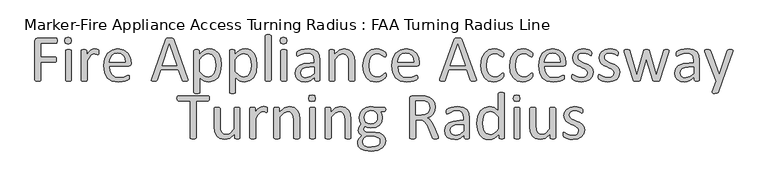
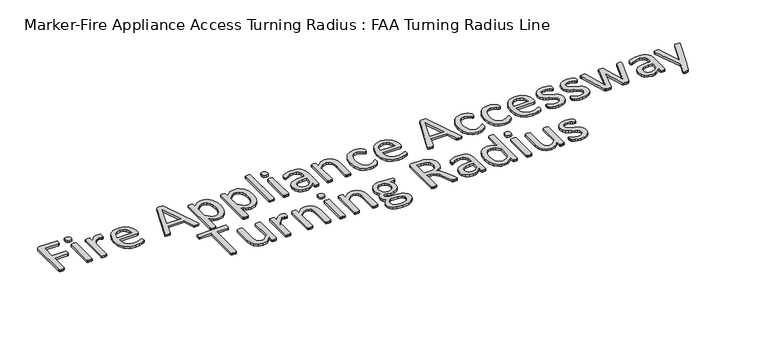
"""IFC4 building model written with IfcOpenShell, lengths in millimetres: proxy geometry, Marker-Fire Appliance Access Turning Radius : FAA Turning Radius Line."""

from ifc_helpers import new_model, si_unit, origin, origin_with_axes, place, context, project, spatial, polyline, outline, extrude, source, transform, mapped, element, save


def marker_fire_appliance_access_turning_radius_faa_turning_acc526ec(model_context):
    return source(origin(), model_context, "Body", "SweptSolid", [
        extrude(outline(polyline([(2938.7478428, 223.7082635), (2938.4462679, 218.4910177), (2937.3907558, 214.9324338), (2935.6416213, 212.9420395), (2933.5607545, 212.3087322), (2861.5446675, 212.3087322), (2861.5446675, 146.6860331), (2929.5799658, 146.6860331), (2931.6608326, 146.1130408), (2933.409967, 144.2432764), (2934.4654792, 140.775165), (2934.7670541, 135.1658718), (2934.4654792, 129.9184685), (2933.409967, 126.3598846), (2931.6608326, 124.2488603), (2929.5799658, 123.5250805), (2861.5446675, 123.5250805), (2861.5446675, 39.6872573), (2860.9113602, 37.6063905), (2858.7098634, 36.0683585), (2854.6386022, 35.1334763), (2848.0341118, 34.7414289), (2841.5804089, 35.1334763), (2837.3583602, 36.0683585), (2835.1568634, 37.6063905), (2834.5235561, 39.6872573), (2834.5235561, 224.6733032), (2837.6599351, 233.087243), (2844.354898, 235.4696848), (2933.5607545, 235.4696848), (2935.5813064, 234.8363775), (2937.3605983, 232.7856681), (2938.4462679, 229.0461393), (2938.7478428, 223.7082635)])), origin_with_axes(), (0.0, 0.0, 1.0), 10.0),
        extrude(outline(polyline([(3004.3705419, 224.0701534), (3001.0532179, 211.7357399), (2988.7489619, 208.4485734), (2976.7462807, 211.6452674), (2973.4892717, 223.7082635), (2976.8065957, 236.0426771), (2989.1108518, 239.3298435), (3001.1135329, 236.1331496), (3004.3705419, 224.0701534)])), origin_with_axes(), (0.0, 0.0, 1.0), 10.0),
        extrude(outline(polyline([(3004.3705419, 39.4459974), (3003.7070771, 37.3952881), (3001.5658953, 35.9477285), (2997.4946341, 35.0430038), (2990.7996712, 34.7414289), (2984.2253383, 35.0430038), (2980.0636046, 35.9477285), (2977.9224228, 37.3952881), (2977.3494305, 39.4459974), (2977.3494305, 176.7228935), (2977.9224228, 178.6831304), (2980.0636046, 180.2211624), (2984.2253383, 181.1258871), (2990.7996712, 181.427462), (2997.4946341, 181.1258871), (3001.5658953, 180.2211624), (3003.7070771, 178.6831304), (3004.3705419, 176.7228935), (3004.3705419, 39.4459974)])), origin_with_axes(), (0.0, 0.0, 1.0), 10.0),
        extrude(outline(polyline([(3131.7557812, 169.8469857), (3131.6049937, 164.3583225), (3131.0018439, 160.7997386), (3129.8860168, 158.7791868), (3128.0162524, 158.0855645), (3125.0909758, 158.7791868), (3121.2006596, 160.1664313), (3116.3453036, 161.4933609), (3110.524908, 162.1266682), (3103.1664803, 160.4680062), (3095.5969502, 155.039658), (3087.3036404, 145.0273712), (3077.7135584, 129.7375235), (3077.7135584, 39.4459974), (3077.0500937, 37.3952881), (3074.9089118, 35.9477285), (3070.8376506, 35.0430038), (3064.1426878, 34.7414289), (3057.5683549, 35.0430038), (3053.4066212, 35.9477285), (3051.2654394, 37.3952881), (3050.6924471, 39.4459974), (3050.6924471, 176.7228935), (3051.1749669, 178.7736029), (3053.1352038, 180.2814774), (3056.9048901, 181.1862021), (3062.9967031, 181.427462), (3068.9678862, 181.1862021), (3072.6471001, 180.2814774), (3074.547022, 178.7736029), (3075.1200143, 176.7228935), (3075.1200143, 156.6983199), (3085.5545059, 170.9929704), (3094.8128555, 179.7084851), (3103.4378977, 184.0813212), (3112.0930975, 185.2876208), (3116.4960911, 185.0765184), (3121.6831794, 184.2622661), (3126.5686928, 182.9051791), (3129.6447569, 181.427462), (3130.8510565, 180.0402175), (3131.3938913, 178.3212405), (3131.6954662, 175.275334), (3131.7557812, 169.8469857)])), origin_with_axes(), (0.0, 0.0, 1.0), 10.0),
        extrude(outline(polyline([(3282.3019731, 115.2619282), (3279.3163815, 106.7575159), (3272.4706312, 104.2242867), (3181.9378451, 104.2242867), (3184.1996569, 81.9077438), (3191.708872, 64.8989193), (3205.4003726, 53.9819078), (3226.0280961, 50.182064), (3243.1575506, 51.9613559), (3256.1855864, 55.9723021), (3265.202676, 59.9832483), (3270.5405518, 61.7625403), (3272.4103162, 61.2498629), (3273.7070883, 59.7419884), (3274.3705531, 56.9373418), (3274.5816555, 52.5343482), (3274.4308681, 49.3074967), (3274.0388207, 46.86474), (3273.2848835, 44.9045032), (3271.9277964, 43.2458412), (3267.0121255, 40.3205646), (3256.4268463, 36.1588309), (3241.3481012, 32.5097746), (3223.072662, 30.8812701), (3193.6087939, 35.7064686), (3172.3477632, 50.061434), (3159.3197274, 73.9763239), (3154.9167338, 107.3606657), (3159.5308298, 139.9307553), (3172.8302831, 164.4186375), (3193.8198963, 179.88943), (3221.3838425, 185.2876208), (3249.1287337, 180.070375), (3267.9771652, 166.0169845), (3278.8338617, 145.2987886), (3282.3019731, 119.9061817), (3282.3019731, 115.2619282)]), holes=[polyline([(3255.2808617, 123.5250805), (3253.3281642, 141.2350668), (3246.625662, 154.6777681), (3235.3392212, 163.1595622), (3219.6347081, 165.986827), (3203.5607657, 162.4885581), (3192.0104469, 153.1698936), (3184.8028067, 139.6291804), (3181.9378451, 123.5250805), (3255.2808617, 123.5250805)])]), origin_with_axes(), (0.0, 0.0, 1.0), 10.0),
        extrude(outline(polyline([(3547.4466284, 45.1759206), (3548.7434005, 39.6872573), (3547.5974158, 36.4604059), (3543.4959971, 35.0430038), (3535.8661521, 34.7414289), (3528.175992, 34.9826888), (3523.8634709, 35.7667836), (3521.7222891, 37.2445006), (3520.365202, 39.5666274), (3503.2357475, 88.7836516), (3420.0613891, 88.7836516), (3403.7160293, 40.2300921), (3402.4494147, 37.8174929), (3400.2177604, 36.0683585), (3396.0560267, 35.0430038), (3388.999174, 34.7414289), (3381.6709038, 35.1334763), (3377.6599576, 36.6111933), (3376.574288, 39.8078873), (3377.9012175, 45.2965505), (3444.9714761, 229.9810215), (3446.5698231, 232.7253531), (3449.5252572, 234.3840151), (3454.4710856, 235.2284248), (3462.1009306, 235.4696848), (3470.303768, 235.2284248), (3475.5813288, 234.3840151), (3478.6573928, 232.6650382), (3480.3763698, 229.8603916), (3547.4466284, 45.1759206)]), holes=[polyline([(3461.3771509, 208.4485734), (3426.7563519, 108.0844455), (3496.2995247, 108.0844455), (3461.3771509, 208.4485734)])]), origin_with_axes(), (0.0, 0.0, 1.0), 10.0),
        extrude(outline(polyline([(3703.0592786, 110.1954698), (3699.1991199, 77.1127029), (3687.8599035, 52.2026158), (3669.3130469, 36.4302484), (3644.0109125, 30.8812701), (3632.8224836, 32.1177272), (3622.7498818, 36.038201), (3612.9788549, 42.7633213), (3602.6951507, 52.2930883), (3602.6951507, -18.1548092), (3602.0316859, -20.356306), (3599.8905041, -21.9244955), (3595.8192429, -22.8593777), (3589.12428, -23.1609526), (3582.5499471, -22.8593777), (3578.3882135, -21.9244955), (3576.2470317, -20.356306), (3575.6740393, -18.2151242), (3575.6740393, 176.6022636), (3576.1565592, 178.8640754), (3578.1167961, 180.3417924), (3581.8864824, 181.1862021), (3587.4957756, 181.427462), (3593.1352263, 181.2163596), (3596.8144401, 180.4322649), (3598.8651494, 179.0450203), (3599.4381418, 176.9038385), (3599.4381418, 159.3521791), (3611.4106654, 170.7517104), (3623.0212992, 178.8037604), (3635.0239804, 183.6591163), (3647.9917012, 185.2876208), (3661.7435168, 183.8023644), (3673.3239931, 179.3465952), (3690.3931327, 163.1218654), (3700.0133721, 139.176818), (3703.0592786, 110.1954698)]), holes=[polyline([(3676.0381673, 107.2400357), (3674.4699778, 127.6868142), (3669.071787, 145.2384736), (3658.7880828, 157.5125722), (3642.7442979, 162.1266682), (3633.2748459, 160.7092662), (3623.8355515, 156.1856426), (3613.7931072, 148.0431202), (3602.6951507, 135.6483917), (3602.6951507, 79.7364045), (3622.026102, 60.6467131), (3631.3975422, 55.6933453), (3641.2364234, 54.0422227), (3657.2198933, 58.6563188), (3668.0162748, 70.9304173), (3674.0779304, 88.0900294), (3676.0381673, 107.2400357)])]), origin_with_axes(), (0.0, 0.0, 1.0), 10.0),
        extrude(outline(polyline([(3869.0461056, 110.1954698), (3865.1859468, 77.1127029), (3853.8467305, 52.2026158), (3835.2998739, 36.4302484), (3809.9977395, 30.8812701), (3798.8093106, 32.1177272), (3788.7367088, 36.038201), (3778.9656819, 42.7633213), (3768.6819777, 52.2930883), (3768.6819777, -18.1548092), (3768.0185129, -20.356306), (3765.8773311, -21.9244955), (3761.8060699, -22.8593777), (3755.111107, -23.1609526), (3748.5367741, -22.8593777), (3744.3750404, -21.9244955), (3742.2338586, -20.356306), (3741.6608663, -18.2151242), (3741.6608663, 176.6022636), (3742.1433862, 178.8640754), (3744.103623, 180.3417924), (3747.8733093, 181.1862021), (3753.4826025, 181.427462), (3759.1220532, 181.2163596), (3762.8012671, 180.4322649), (3764.8519764, 179.0450203), (3765.4249687, 176.9038385), (3765.4249687, 159.3521791), (3777.3974924, 170.7517104), (3789.0081262, 178.8037604), (3801.0108074, 183.6591163), (3813.9785282, 185.2876208), (3827.7303438, 183.8023644), (3839.3108201, 179.3465952), (3856.3799597, 163.1218654), (3866.0001991, 139.176818), (3869.0461056, 110.1954698)]), holes=[polyline([(3842.0249942, 107.2400357), (3840.4568047, 127.6868142), (3835.058614, 145.2384736), (3824.7749098, 157.5125722), (3808.7311249, 162.1266682), (3799.2616729, 160.7092662), (3789.8223784, 156.1856426), (3779.7799341, 148.0431202), (3768.6819777, 135.6483917), (3768.6819777, 79.7364045), (3788.012929, 60.6467131), (3797.3843691, 55.6933453), (3807.2232504, 54.0422227), (3823.2067203, 58.6563188), (3834.0031018, 70.9304173), (3840.0647574, 88.0900294), (3842.0249942, 107.2400357)])]), origin_with_axes(), (0.0, 0.0, 1.0), 10.0),
        extrude(outline(polyline([(3934.6688046, 39.5063124), (3934.0053399, 37.455603), (3931.864158, 35.977886), (3927.7928968, 35.0430038), (3921.097934, 34.7414289), (3914.5236011, 35.0430038), (3910.3618674, 35.977886), (3908.2206856, 37.455603), (3907.6476933, 39.5063124), (3907.6476933, 245.9644914), (3908.2206856, 248.1358307), (3910.3618674, 249.6738627), (3914.5236011, 250.6087449), (3921.097934, 250.9103198), (3927.7928968, 250.6087449), (3931.864158, 249.6738627), (3934.0053399, 248.1358307), (3934.6688046, 245.9644914), (3934.6688046, 39.5063124)])), origin_with_axes(), (0.0, 0.0, 1.0), 10.0),
        extrude(outline(polyline([(4008.0118212, 224.0701534), (4004.6944973, 211.7357399), (3992.3902412, 208.4485734), (3980.38756, 211.6452674), (3977.1305511, 223.7082635), (3980.447875, 236.0426771), (3992.7521311, 239.3298435), (4004.7548123, 236.1331496), (4008.0118212, 224.0701534)])), origin_with_axes(), (0.0, 0.0, 1.0), 10.0),
        extrude(outline(polyline([(4008.0118212, 39.4459974), (4007.3483564, 37.3952881), (4005.2071746, 35.9477285), (4001.1359134, 35.0430038), (3994.4409506, 34.7414289), (3987.8666177, 35.0430038), (3983.704884, 35.9477285), (3981.5637022, 37.3952881), (3980.9907098, 39.4459974), (3980.9907098, 176.7228935), (3981.5637022, 178.6831304), (3983.704884, 180.2211624), (3987.8666177, 181.1258871), (3994.4409506, 181.427462), (4001.1359134, 181.1258871), (4005.2071746, 180.2211624), (4007.3483564, 178.6831304), (4008.0118212, 176.7228935), (4008.0118212, 39.4459974)])), origin_with_axes(), (0.0, 0.0, 1.0), 10.0),
        extrude(outline(polyline([(4162.4181719, 39.3856824), (4161.0912423, 36.5810358), (4157.4723435, 35.1937913), (4150.7170656, 34.7414289), (4143.8713153, 35.1937913), (4140.161944, 36.5810358), (4139.0159594, 39.3856824), (4139.0159594, 53.258128), (4118.6898109, 37.2143431), (4107.139492, 32.4645384), (4094.9257084, 30.8812701), (4074.9916073, 33.7462317), (4059.8223897, 42.0395416), (4050.0815203, 55.3691523), (4046.6134089, 73.3430166), (4051.4084498, 93.789795), (4065.1602655, 108.2050754), (4087.084761, 116.7999602), (4116.2772116, 119.6649218), (4135.3970605, 119.6649218), (4135.3970605, 131.1850831), (4133.7082411, 146.2638283), (4128.2798928, 157.1808398), (4118.5993384, 163.7551727), (4103.9729556, 165.986827), (4087.2355484, 163.5742277), (4074.2678275, 158.2665094), (4064.949163, 152.9587911), (4059.4001848, 150.5461919), (4057.2288455, 151.1794992), (4055.6304985, 153.1095786), (4054.6353013, 156.4269025), (4054.3337264, 160.8600536), (4054.8765612, 167.1931266), (4057.5304204, 171.6262777), (4064.7682181, 176.1499012), (4076.5899543, 180.6132098), (4091.2163371, 183.9606912), (4107.2299645, 185.2876208), (4132.8638313, 181.8798244), (4149.9631284, 171.9278526), (4159.4627378, 155.6729653), (4162.4181719, 132.9945325), (4162.4181719, 39.3856824)]), holes=[polyline([(4135.3970605, 100.3641279), (4113.9249274, 100.3641279), (4096.0113781, 98.584836), (4083.3753896, 93.3374327), (4075.9868045, 85.0139653), (4073.6345202, 73.8255364), (4075.3233397, 64.084667), (4080.3897981, 56.5754519), (4088.502163, 51.780411), (4099.328702, 50.182064), (4117.6644562, 55.2786798), (4135.3970605, 70.8701024), (4135.3970605, 100.3641279)])]), origin_with_axes(), (0.0, 0.0, 1.0), 10.0),
        extrude(outline(polyline([(4324.5448401, 39.5063124), (4323.8813753, 37.455603), (4321.7401935, 35.977886), (4317.6689323, 35.0430038), (4311.0945994, 34.7414289), (4304.3996365, 35.0430038), (4300.3283753, 35.9477285), (4298.1871935, 37.3952881), (4297.5237287, 39.5063124), (4297.5237287, 120.0871266), (4295.7444368, 139.0260306), (4290.5875059, 151.4207591), (4281.8116762, 159.3823366), (4269.3566327, 162.1266682), (4251.0510361, 155.4015478), (4231.9010297, 135.6483917), (4231.9010297, 39.5063124), (4231.2375649, 37.3952881), (4229.0963831, 35.9477285), (4225.0251219, 35.0430038), (4218.330159, 34.7414289), (4211.7558261, 35.0430038), (4207.5940924, 35.9477285), (4205.4529106, 37.3952881), (4204.8799183, 39.4459974), (4204.8799183, 176.7228935), (4205.3624382, 178.7736029), (4207.322675, 180.2814774), (4211.0923613, 181.1862021), (4217.1841744, 181.427462), (4223.1553575, 181.1862021), (4226.8345713, 180.2814774), (4228.7344932, 178.7736029), (4229.3074855, 176.7228935), (4229.3074855, 158.5680843), (4252.3779656, 178.8640754), (4275.5690757, 185.2876208), (4298.6093984, 180.5830523), (4313.7484585, 168.0073788), (4322.0417684, 149.5811522), (4324.5448401, 124.1885453), (4324.5448401, 39.5063124)])), origin_with_axes(), (0.0, 0.0, 1.0), 10.0),
        extrude(outline(polyline([(4471.2308732, 62.48632), (4471.0800858, 58.2642714), (4470.5372509, 55.2485223), (4469.6325262, 52.8057656), (4467.219927, 49.1868668), (4460.7360666, 43.3061562), (4450.4523624, 37.0635557), (4438.0576338, 32.6002471), (4424.1851882, 30.8812701), (4398.0084866, 35.8874135), (4378.9187952, 50.5137964), (4367.1875315, 74.0969538), (4363.1464277, 106.335311), (4368.0922562, 142.0719371), (4381.6329693, 166.5296618), (4401.8686454, 180.6735248), (4427.0803073, 185.2876208), (4439.8067683, 183.9305337), (4451.1459846, 180.3719499), (4460.3741767, 175.3054915), (4466.2247298, 170.3898206), (4468.7278015, 167.1629691), (4469.8737862, 164.5995824), (4470.476936, 161.4330459), (4470.6277234, 156.9998948), (4469.2706363, 148.9780024), (4465.9834699, 146.6860331), (4460.7662241, 149.0986324), (4453.3173239, 154.4063507), (4442.3701549, 159.714069), (4427.2612523, 162.1266682), (4411.390873, 158.6283993), (4399.7274636, 148.1335927), (4392.5575202, 130.9739807), (4390.1675391, 107.4812957), (4392.6404533, 84.1393981), (4399.938566, 67.3718335), (4411.7904597, 57.3293892), (4427.8644021, 54.0422227), (4442.9129898, 57.0881293), (4454.1315762, 63.7830921), (4462.1233111, 70.3875825), (4467.1897695, 73.3430166), (4468.9690614, 72.7700243), (4470.2658335, 70.8399449), (4471.0197708, 67.401991), (4471.2308732, 62.48632)])), origin_with_axes(), (0.0, 0.0, 1.0), 10.0),
        extrude(outline(polyline([(4625.6372239, 115.2619282), (4622.6516323, 106.7575159), (4615.805882, 104.2242867), (4525.273096, 104.2242867), (4527.5349077, 81.9077438), (4535.0441228, 64.8989193), (4548.7356235, 53.9819078), (4569.3633469, 50.182064), (4586.4928014, 51.9613559), (4599.5208372, 55.9723021), (4608.5379268, 59.9832483), (4613.8758026, 61.7625403), (4615.745567, 61.2498629), (4617.0423391, 59.7419884), (4617.7058039, 56.9373418), (4617.9169064, 52.5343482), (4617.7661189, 49.3074967), (4617.3740715, 46.86474), (4616.6201343, 44.9045032), (4615.2630472, 43.2458412), (4610.3473763, 40.3205646), (4599.7620972, 36.1588309), (4584.683352, 32.5097746), (4566.4079128, 30.8812701), (4536.9440447, 35.7064686), (4515.683014, 50.061434), (4502.6549782, 73.9763239), (4498.2519846, 107.3606657), (4502.8660806, 139.9307553), (4516.1655339, 164.4186375), (4537.1551472, 179.88943), (4564.7190933, 185.2876208), (4592.4639845, 180.070375), (4611.312416, 166.0169845), (4622.1691125, 145.2987886), (4625.6372239, 119.9061817), (4625.6372239, 115.2619282)]), holes=[polyline([(4598.6161125, 123.5250805), (4596.663415, 141.2350668), (4589.9609128, 154.6777681), (4578.674472, 163.1595622), (4562.9699589, 165.986827), (4546.8960165, 162.4885581), (4535.3456977, 153.1698936), (4528.1380575, 139.6291804), (4525.273096, 123.5250805), (4598.6161125, 123.5250805)])]), origin_with_axes(), (0.0, 0.0, 1.0), 10.0),
        extrude(outline(polyline([(4890.7818792, 45.1759206), (4892.0786513, 39.6872573), (4890.9326666, 36.4604059), (4886.8312479, 35.0430038), (4879.2014029, 34.7414289), (4871.5112428, 34.9826888), (4867.1987217, 35.7667836), (4865.0575399, 37.2445006), (4863.7004528, 39.5666274), (4846.5709983, 88.7836516), (4763.3966399, 88.7836516), (4747.0512801, 40.2300921), (4745.7846655, 37.8174929), (4743.5530112, 36.0683585), (4739.3912775, 35.0430038), (4732.3344248, 34.7414289), (4725.0061546, 35.1334763), (4720.9952084, 36.6111933), (4719.9095388, 39.8078873), (4721.2364683, 45.2965505), (4788.3067269, 229.9810215), (4789.9050739, 232.7253531), (4792.860508, 234.3840151), (4797.8063364, 235.2284248), (4805.4361814, 235.4696848), (4813.6390188, 235.2284248), (4818.9165796, 234.3840151), (4821.9926436, 232.6650382), (4823.7116206, 229.8603916), (4890.7818792, 45.1759206)]), holes=[polyline([(4804.7124017, 208.4485734), (4770.0916027, 108.0844455), (4839.6347755, 108.0844455), (4804.7124017, 208.4485734)])]), origin_with_axes(), (0.0, 0.0, 1.0), 10.0),
        extrude(outline(polyline([(5019.3734181, 62.48632), (5019.2226306, 58.2642714), (5018.6797958, 55.2485223), (5017.7750711, 52.8057656), (5015.3624719, 49.1868668), (5008.8786114, 43.3061562), (4998.5949072, 37.0635557), (4986.2001787, 32.6002471), (4972.3277331, 30.8812701), (4946.1510315, 35.8874135), (4927.0613401, 50.5137964), (4915.3300763, 74.0969538), (4911.2889726, 106.335311), (4916.234801, 142.0719371), (4929.7755142, 166.5296618), (4950.0111902, 180.6735248), (4975.2228522, 185.2876208), (4987.9493131, 183.9305337), (4999.2885295, 180.3719499), (5008.5167216, 175.3054915), (5014.3672747, 170.3898206), (5016.8703464, 167.1629691), (5018.016331, 164.5995824), (5018.6194808, 161.4330459), (5018.7702683, 156.9998948), (5017.4131812, 148.9780024), (5014.1260148, 146.6860331), (5008.9087689, 149.0986324), (5001.4598688, 154.4063507), (4990.5126998, 159.714069), (4975.4037971, 162.1266682), (4959.5334178, 158.6283993), (4947.8700084, 148.1335927), (4940.7000651, 130.9739807), (4938.310084, 107.4812957), (4940.7829982, 84.1393981), (4948.0811109, 67.3718335), (4959.9330046, 57.3293892), (4976.0069469, 54.0422227), (4991.0555346, 57.0881293), (5002.274121, 63.7830921), (5010.265856, 70.3875825), (5015.3323144, 73.3430166), (5017.1116063, 72.7700243), (5018.4083784, 70.8399449), (5019.1623157, 67.401991), (5019.3734181, 62.48632)])), origin_with_axes(), (0.0, 0.0, 1.0), 10.0),
        extrude(outline(polyline([(5154.4789749, 62.48632), (5154.3281875, 58.2642714), (5153.7853526, 55.2485223), (5152.8806279, 52.8057656), (5150.4680287, 49.1868668), (5143.9841683, 43.3061562), (5133.7004641, 37.0635557), (5121.3057355, 32.6002471), (5107.43329, 30.8812701), (5081.2565883, 35.8874135), (5062.1668969, 50.5137964), (5050.4356332, 74.0969538), (5046.3945295, 106.335311), (5051.3403579, 142.0719371), (5064.881071, 166.5296618), (5085.1167471, 180.6735248), (5110.328409, 185.2876208), (5123.05487, 183.9305337), (5134.3940863, 180.3719499), (5143.6222784, 175.3054915), (5149.4728315, 170.3898206), (5151.9759032, 167.1629691), (5153.1218879, 164.5995824), (5153.7250377, 161.4330459), (5153.8758251, 156.9998948), (5152.518738, 148.9780024), (5149.2315716, 146.6860331), (5144.0143258, 149.0986324), (5136.5654256, 154.4063507), (5125.6182566, 159.714069), (5110.509354, 162.1266682), (5094.6389747, 158.6283993), (5082.9755653, 148.1335927), (5075.8056219, 130.9739807), (5073.4156408, 107.4812957), (5075.888555, 84.1393981), (5083.1866677, 67.3718335), (5095.0385614, 57.3293892), (5111.1125038, 54.0422227), (5126.1610915, 57.0881293), (5137.3796779, 63.7830921), (5145.3714128, 70.3875825), (5150.4378712, 73.3430166), (5152.2171631, 72.7700243), (5153.5139352, 70.8399449), (5154.2678725, 67.401991), (5154.4789749, 62.48632)])), origin_with_axes(), (0.0, 0.0, 1.0), 10.0),
        extrude(outline(polyline([(5308.8853256, 115.2619282), (5305.899734, 106.7575159), (5299.0539837, 104.2242867), (5208.5211977, 104.2242867), (5210.7830094, 81.9077438), (5218.2922245, 64.8989193), (5231.9837252, 53.9819078), (5252.6114486, 50.182064), (5269.7409031, 51.9613559), (5282.7689389, 55.9723021), (5291.7860285, 59.9832483), (5297.1239043, 61.7625403), (5298.9936687, 61.2498629), (5300.2904408, 59.7419884), (5300.9539056, 56.9373418), (5301.1650081, 52.5343482), (5301.0142206, 49.3074967), (5300.6221732, 46.86474), (5299.868236, 44.9045032), (5298.5111489, 43.2458412), (5293.595478, 40.3205646), (5283.0101989, 36.1588309), (5267.9314537, 32.5097746), (5249.6560145, 30.8812701), (5220.1921464, 35.7064686), (5198.9311157, 50.061434), (5185.9030799, 73.9763239), (5181.5000863, 107.3606657), (5186.1141823, 139.9307553), (5199.4136356, 164.4186375), (5220.4032489, 179.88943), (5247.9671951, 185.2876208), (5275.7120862, 180.070375), (5294.5605177, 166.0169845), (5305.4172142, 145.2987886), (5308.8853256, 119.9061817), (5308.8853256, 115.2619282)]), holes=[polyline([(5281.8642142, 123.5250805), (5279.9115167, 141.2350668), (5273.2090145, 154.6777681), (5261.9225737, 163.1595622), (5246.2180606, 165.986827), (5230.1441182, 162.4885581), (5218.5937994, 153.1698936), (5211.3861592, 139.6291804), (5208.5211977, 123.5250805), (5281.8642142, 123.5250805)])]), origin_with_axes(), (0.0, 0.0, 1.0), 10.0),
        extrude(outline(polyline([(5436.2705649, 75.9968757), (5432.2596187, 56.7865544), (5420.8299298, 42.5823764), (5403.187798, 33.8367042), (5380.6601527, 30.8812701), (5366.2147148, 32.2685147), (5353.9406162, 35.7969411), (5344.7425816, 40.2602496), (5339.2237609, 44.4521408), (5336.6905317, 48.8852919), (5335.906437, 55.9119871), (5336.2080119, 60.4657682), (5336.9921066, 63.4513597), (5338.3190362, 65.1100217), (5340.2491156, 65.622699), (5345.255259, 63.2100998), (5353.4580963, 57.9023815), (5365.0084152, 52.5946632), (5380.2982628, 50.182064), (5392.059684, 51.659781), (5401.1974036, 56.0326171), (5407.1685867, 63.3910447), (5409.2494535, 73.9461664), (5406.263862, 83.9282957), (5398.332442, 91.1359359), (5387.264643, 96.6849141), (5374.5984971, 101.7513725), (5361.8418787, 107.7527131), (5350.6836072, 115.9555505), (5342.7521873, 127.5058693), (5339.7665957, 143.6099691), (5342.9632897, 159.4426516), (5352.5533716, 172.7119473), (5368.5368415, 181.8496669), (5390.9740144, 185.2876208), (5402.1926008, 184.2622661), (5412.3255175, 181.668722), (5420.0458351, 178.291083), (5424.8710335, 175.0943891), (5427.0423728, 172.8024198), (5427.8264676, 170.8120254), (5428.3089874, 168.0676938), (5428.5502474, 164.0567476), (5428.3089874, 159.6839115), (5427.5248927, 156.638005), (5426.1678056, 154.919028), (5424.3885137, 154.4063507), (5420.22678, 156.2459576), (5413.2000848, 160.1965888), (5403.067168, 164.1472201), (5389.7677147, 165.986827), (5377.9459785, 164.448795), (5369.5621962, 160.0759589), (5364.6163678, 153.380996), (5362.9275483, 144.9972137), (5366.1242423, 134.7738244), (5374.4778671, 127.5058693), (5386.2091309, 121.8965761), (5399.5990566, 116.7698027), (5413.0794548, 110.8287771), (5424.8710335, 102.8671996), (5433.1341859, 91.6184557), (5436.2705649, 75.9968757)])), origin_with_axes(), (0.0, 0.0, 1.0), 10.0),
        extrude(outline(polyline([(5559.7956454, 75.9968757), (5555.7846992, 56.7865544), (5544.3550104, 42.5823764), (5526.7128785, 33.8367042), (5504.1852332, 30.8812701), (5489.7397953, 32.2685147), (5477.4656967, 35.7969411), (5468.2676622, 40.2602496), (5462.7488414, 44.4521408), (5460.2156122, 48.8852919), (5459.4315175, 55.9119871), (5459.7330924, 60.4657682), (5460.5171871, 63.4513597), (5461.8441167, 65.1100217), (5463.7741961, 65.622699), (5468.7803395, 63.2100998), (5476.9831769, 57.9023815), (5488.5334957, 52.5946632), (5503.8233433, 50.182064), (5515.5847645, 51.659781), (5524.7224841, 56.0326171), (5530.6936672, 63.3910447), (5532.7745341, 73.9461664), (5529.7889425, 83.9282957), (5521.8575225, 91.1359359), (5510.7897236, 96.6849141), (5498.1235776, 101.7513725), (5485.3669592, 107.7527131), (5474.2086878, 115.9555505), (5466.2772678, 127.5058693), (5463.2916763, 143.6099691), (5466.4883702, 159.4426516), (5476.0784522, 172.7119473), (5492.0619221, 181.8496669), (5514.4990949, 185.2876208), (5525.7176813, 184.2622661), (5535.8505981, 181.668722), (5543.5709156, 178.291083), (5548.3961141, 175.0943891), (5550.5674534, 172.8024198), (5551.3515481, 170.8120254), (5551.834068, 168.0676938), (5552.0753279, 164.0567476), (5551.834068, 159.6839115), (5551.0499732, 156.638005), (5549.6928861, 154.919028), (5547.9135942, 154.4063507), (5543.7518605, 156.2459576), (5536.7251653, 160.1965888), (5526.5922485, 164.1472201), (5513.2927953, 165.986827), (5501.4710591, 164.448795), (5493.0872767, 160.0759589), (5488.1414483, 153.380996), (5486.4526289, 144.9972137), (5489.6493228, 134.7738244), (5498.0029477, 127.5058693), (5509.7342114, 121.8965761), (5523.1241371, 116.7698027), (5536.6045353, 110.8287771), (5548.3961141, 102.8671996), (5556.6592664, 91.6184557), (5559.7956454, 75.9968757)])), origin_with_axes(), (0.0, 0.0, 1.0), 10.0),
        extrude(outline(polyline([(5789.1735171, 177.0244684), (5788.8719422, 174.4007668), (5787.7862726, 170.6310805), (5746.8324007, 40.2300921), (5745.3546836, 37.4857605), (5742.5801945, 35.8270986), (5737.7248386, 34.9826888), (5730.004521, 34.7414289), (5721.9524711, 35.0430038), (5716.7955403, 35.9477285), (5713.9305787, 37.576233), (5712.5131766, 40.1094622), (5683.320726, 137.638786), (5655.9377247, 40.1094622), (5654.4901652, 37.4254455), (5651.4744161, 35.7667836), (5646.3174853, 34.9525313), (5638.5066953, 34.7414289), (5630.6657478, 35.0430038), (5625.7199194, 35.9477285), (5622.8851153, 37.636548), (5621.4978707, 40.2300921), (5580.8455737, 170.6310805), (5579.759904, 174.4007668), (5579.4583291, 177.0244684), (5580.0614789, 179.1958077), (5582.1423458, 180.5830523), (5586.092977, 181.2766746), (5592.1244751, 181.427462), (5599.0908554, 181.1862021), (5603.1018016, 180.4322649), (5605.0921959, 178.9243903), (5606.1778656, 176.5419486), (5639.7129949, 63.1497848), (5671.0767849, 176.5419486), (5672.132297, 178.9243903), (5674.2131639, 180.4322649), (5677.9828502, 181.1862021), (5683.9238758, 181.427462), (5690.0458463, 181.1862021), (5693.8155326, 180.4322649), (5695.8360845, 178.9847053), (5696.7709667, 176.8435235), (5730.004521, 63.1497848), (5763.5396503, 176.5419486), (5764.5348475, 178.9243903), (5766.7061868, 180.4322649), (5770.717133, 181.1862021), (5777.2914659, 181.427462), (5783.2324915, 181.2766746), (5786.7910754, 180.5227373), (5788.6306823, 179.1354928), (5789.1735171, 177.0244684)])), origin_with_axes(), (0.0, 0.0, 1.0), 10.0),
        extrude(outline(polyline([(5930.370887, 39.3856824), (5929.0439574, 36.5810358), (5925.4250586, 35.1937913), (5918.6697808, 34.7414289), (5911.8240304, 35.1937913), (5908.1146591, 36.5810358), (5906.9686745, 39.3856824), (5906.9686745, 53.258128), (5886.642526, 37.2143431), (5875.0922072, 32.4645384), (5862.8784236, 30.8812701), (5842.9443225, 33.7462317), (5827.7751048, 42.0395416), (5818.0342354, 55.3691523), (5814.566124, 73.3430166), (5819.361165, 93.789795), (5833.1129806, 108.2050754), (5855.0374761, 116.7999602), (5884.2299268, 119.6649218), (5903.3497757, 119.6649218), (5903.3497757, 131.1850831), (5901.6609562, 146.2638283), (5896.2326079, 157.1808398), (5886.5520535, 163.7551727), (5871.9256707, 165.986827), (5855.1882635, 163.5742277), (5842.2205427, 158.2665094), (5832.9018782, 152.9587911), (5827.3528999, 150.5461919), (5825.1815606, 151.1794992), (5823.5832136, 153.1095786), (5822.5880165, 156.4269025), (5822.2864416, 160.8600536), (5822.8292764, 167.1931266), (5825.4831355, 171.6262777), (5832.7209332, 176.1499012), (5844.5426694, 180.6132098), (5859.1690523, 183.9606912), (5875.1826797, 185.2876208), (5900.8165465, 181.8798244), (5917.9158435, 171.9278526), (5927.415453, 155.6729653), (5930.370887, 132.9945325), (5930.370887, 39.3856824)]), holes=[polyline([(5903.3497757, 100.3641279), (5881.8776425, 100.3641279), (5863.9640932, 98.584836), (5851.3281048, 93.3374327), (5843.9395196, 85.0139653), (5841.5872354, 73.8255364), (5843.2760548, 64.084667), (5848.3425132, 56.5754519), (5856.4548781, 51.780411), (5867.2814172, 50.182064), (5885.6171713, 55.2786798), (5903.3497757, 70.8701024), (5903.3497757, 100.3641279)])]), origin_with_axes(), (0.0, 0.0, 1.0), 10.0),
        extrude(outline(polyline([(6036.706198, 34.7414289), (6018.129184, -17.9135493), (6013.4246155, -21.8038655), (6001.9044542, -23.1609526), (5995.4507512, -22.7689052), (5991.6509074, -21.4118182), (5990.1731904, -18.8484315), (5990.9271277, -15.0184302), (6010.1072915, 34.7414289), (6007.4835899, 36.7318233), (6005.7646129, 39.6269423), (5956.1856988, 171.5961202), (5954.9190842, 176.692736), (5956.1555413, 179.5878551), (5960.1664875, 181.0354147), (5967.5852301, 181.427462), (5974.8531853, 181.1862021), (5979.0450765, 180.3417924), (5981.3068882, 178.5926579), (5982.7242903, 175.4562789), (6022.4718626, 64.6576593), (6061.2543952, 176.0594287), (6063.516207, 179.7989576), (6067.4366807, 181.0354147), (6075.0062108, 181.427462), (6082.1233785, 181.0354147), (6086.2247972, 179.5878551), (6087.5517268, 176.692736), (6086.5866871, 172.07864), (6036.706198, 34.7414289)])), origin_with_axes(), (0.0, 0.0, 1.0), 10.0),
        extrude(outline(polyline([(3647.0869765, -45.7745943), (3646.7854016, -50.9918401), (3645.7902044, -54.550424), (3644.0712275, -56.5408183), (3641.8395732, -57.1741256), (3585.3244363, -57.1741256), (3585.3244363, -229.7956005), (3584.691129, -231.9669398), (3582.4896322, -233.4144993), (3578.3278985, -234.3493815), (3571.8138806, -234.7414289), (3565.3601776, -234.3493815), (3561.138129, -233.4144993), (3558.9366322, -231.9669398), (3558.3033249, -229.7956005), (3558.3033249, -57.1741256), (3501.788188, -57.1741256), (3499.5565337, -56.5408183), (3497.9280292, -54.550424), (3496.932832, -50.9918401), (3496.5407846, -45.7745943), (3496.932832, -40.4367185), (3497.9581867, -36.6971897), (3499.5866912, -34.6464803), (3501.8485029, -34.013173), (3641.7792582, -34.013173), (3644.04107, -34.6464803), (3645.760047, -36.6971897), (3646.7854016, -40.4367185), (3647.0869765, -45.7745943)])), origin_with_axes(), (0.0, 0.0, 1.0), 10.0),
        extrude(outline(polyline([(3789.9128509, -230.0368604), (3789.3398586, -232.0875697), (3787.3193067, -233.5351293), (3783.4893054, -234.439854), (3777.7292248, -234.7414289), (3771.5770968, -234.439854), (3767.837568, -233.5351293), (3765.9678035, -232.0875697), (3765.4852837, -230.0368604), (3765.4852837, -211.8820512), (3742.3544886, -232.2081997), (3719.2236935, -238.6015877), (3696.1833708, -233.9573342), (3681.0443107, -221.3816607), (3672.7510008, -202.8649616), (3670.2479291, -177.1406223), (3670.2479291, -92.8202792), (3670.8209214, -90.7695699), (3673.0224182, -89.2315379), (3677.2444669, -88.2966557), (3683.7584848, -88.0553958), (3690.2725027, -88.2966557), (3694.4040789, -89.2013804), (3696.6055757, -90.7092549), (3697.2690405, -92.8202792), (3697.2690405, -172.9185737), (3698.95786, -192.249525), (3704.1449483, -204.6442535), (3712.9509355, -212.605831), (3725.3758215, -215.4406351), (3734.5210805, -213.7442762), (3743.6211032, -208.6551997), (3762.8917395, -188.7210986), (3762.8917395, -92.7599643), (3763.4647318, -90.7092549), (3765.6662286, -89.2013804), (3769.8279623, -88.2966557), (3776.4022952, -88.0553958), (3782.9163131, -88.2966557), (3786.9875743, -89.2013804), (3789.1890711, -90.7092549), (3789.9128509, -92.7599643), (3789.9128509, -230.0368604)])), origin_with_axes(), (0.0, 0.0, 1.0), 10.0),
        extrude(outline(polyline([(3917.2980902, -99.6358721), (3917.1473027, -105.1245353), (3916.5441529, -108.6831192), (3915.4283258, -110.703671), (3913.5585614, -111.3972933), (3910.6332848, -110.703671), (3906.7429686, -109.3164265), (3901.8876126, -107.9894969), (3896.067217, -107.3561896), (3888.7087893, -109.0148516), (3881.1392593, -114.4431998), (3872.8459494, -124.4554866), (3863.2558675, -139.7453343), (3863.2558675, -230.0368604), (3862.5924027, -232.0875697), (3860.4512209, -233.5351293), (3856.3799597, -234.439854), (3849.6849968, -234.7414289), (3843.1106639, -234.439854), (3838.9489302, -233.5351293), (3836.8077484, -232.0875697), (3836.2347561, -230.0368604), (3836.2347561, -92.7599643), (3836.7172759, -90.7092549), (3838.6775128, -89.2013804), (3842.4471991, -88.2966557), (3848.5390122, -88.0553958), (3854.5101953, -88.2966557), (3858.1894091, -89.2013804), (3860.089331, -90.7092549), (3860.6623233, -92.7599643), (3860.6623233, -112.7845379), (3871.096815, -98.4898874), (3880.3551645, -89.7743727), (3888.9802067, -85.4015366), (3897.6354065, -84.195237), (3902.0384001, -84.4063394), (3907.2254884, -85.2205917), (3912.1110019, -86.5776787), (3915.1870659, -88.0553958), (3916.3933655, -89.4426403), (3916.9362003, -91.1616173), (3917.2377752, -94.2075238), (3917.2980902, -99.6358721)])), origin_with_axes(), (0.0, 0.0, 1.0), 10.0),
        extrude(outline(polyline([(4067.8442821, -229.9765454), (4067.1808173, -232.0272548), (4065.0396355, -233.5049718), (4060.9683743, -234.439854), (4054.3940414, -234.7414289), (4047.6990785, -234.439854), (4043.6278173, -233.5351293), (4041.4866355, -232.0875697), (4040.8231707, -229.9765454), (4040.8231707, -149.3957312), (4039.0438788, -130.4568272), (4033.8869479, -118.0620987), (4025.1111183, -110.1005212), (4012.6560747, -107.3561896), (3994.3504781, -114.08131), (3975.2004717, -133.8344661), (3975.2004717, -229.9765454), (3974.5370069, -232.0875697), (3972.3958251, -233.5351293), (3968.3245639, -234.439854), (3961.629601, -234.7414289), (3955.0552681, -234.439854), (3950.8935345, -233.5351293), (3948.7523526, -232.0875697), (3948.1793603, -230.0368604), (3948.1793603, -92.7599643), (3948.6618802, -90.7092549), (3950.6221171, -89.2013804), (3954.3918033, -88.2966557), (3960.4836164, -88.0553958), (3966.4547995, -88.2966557), (3970.1340133, -89.2013804), (3972.0339352, -90.7092549), (3972.6069275, -92.7599643), (3972.6069275, -110.9147735), (3995.6774077, -90.6187824), (4018.8685177, -84.195237), (4041.9088404, -88.8998055), (4057.0479005, -101.475479), (4065.3412104, -119.9017056), (4067.8442821, -145.2943125), (4067.8442821, -229.9765454)])), origin_with_axes(), (0.0, 0.0, 1.0), 10.0),
        extrude(outline(polyline([(4141.1872987, -45.4127044), (4137.8699747, -57.7471179), (4125.5657187, -61.0342844), (4113.5630375, -57.8375904), (4110.3060285, -45.7745943), (4113.6233525, -33.4401807), (4125.9276085, -30.1530143), (4137.9302897, -33.3497082), (4141.1872987, -45.4127044)])), origin_with_axes(), (0.0, 0.0, 1.0), 10.0),
        extrude(outline(polyline([(4141.1872987, -230.0368604), (4140.5238339, -232.0875697), (4138.3826521, -233.5351293), (4134.3113909, -234.439854), (4127.616428, -234.7414289), (4121.0420951, -234.439854), (4116.8803614, -233.5351293), (4114.7391796, -232.0875697), (4114.1661873, -230.0368604), (4114.1661873, -92.7599643), (4114.7391796, -90.7997274), (4116.8803614, -89.2616954), (4121.0420951, -88.3569707), (4127.616428, -88.0553958), (4134.3113909, -88.3569707), (4138.3826521, -89.2616954), (4140.5238339, -90.7997274), (4141.1872987, -92.7599643), (4141.1872987, -230.0368604)])), origin_with_axes(), (0.0, 0.0, 1.0), 10.0),
        extrude(outline(polyline([(4307.1741256, -229.9765454), (4306.5106608, -232.0272548), (4304.369479, -233.5049718), (4300.2982178, -234.439854), (4293.7238849, -234.7414289), (4287.0289221, -234.439854), (4282.9576609, -233.5351293), (4280.8164791, -232.0875697), (4280.1530143, -229.9765454), (4280.1530143, -149.3957312), (4278.3737223, -130.4568272), (4273.2167915, -118.0620987), (4264.4409618, -110.1005212), (4251.9859183, -107.3561896), (4233.6803216, -114.08131), (4214.5303152, -133.8344661), (4214.5303152, -229.9765454), (4213.8668504, -232.0875697), (4211.7256686, -233.5351293), (4207.6544074, -234.439854), (4200.9594446, -234.7414289), (4194.3851117, -234.439854), (4190.223378, -233.5351293), (4188.0821962, -232.0875697), (4187.5092039, -230.0368604), (4187.5092039, -92.7599643), (4187.9917237, -90.7092549), (4189.9519606, -89.2013804), (4193.7216469, -88.2966557), (4199.8134599, -88.0553958), (4205.784643, -88.2966557), (4209.4638569, -89.2013804), (4211.3637787, -90.7092549), (4211.9367711, -92.7599643), (4211.9367711, -110.9147735), (4235.0072512, -90.6187824), (4258.1983613, -84.195237), (4281.2386839, -88.8998055), (4296.3777441, -101.475479), (4304.6710539, -119.9017056), (4307.1741256, -145.2943125), (4307.1741256, -229.9765454)])), origin_with_axes(), (0.0, 0.0, 1.0), 10.0),
        extrude(outline(polyline([(4469.3007938, -97.7661077), (4467.8230768, -105.0943778), (4464.0533905, -107.3561896), (4444.0891319, -107.3561896), (4451.6888195, -119.8413906), (4453.8601588, -134.0154111), (4450.0, -155.4875442), (4438.932201, -171.2900692), (4421.8027465, -181.1515685), (4399.817936, -184.5593649), (4383.6233637, -182.2975532), (4371.77147, -176.5977875), (4366.9462715, -182.900703), (4365.0765071, -191.0733829), (4370.2032805, -200.0), (4383.8344661, -203.8601588), (4420.8678643, -205.4283483), (4440.2892881, -208.3536248), (4455.5791357, -215.802525), (4465.681895, -227.6544187), (4469.3007938, -243.969621), (4465.2596901, -262.6371075), (4452.8649616, -278.1983725), (4431.5737734, -288.7836516), (4401.0242356, -292.6438104), (4372.1032024, -289.7486913), (4352.5611486, -281.8474288), (4341.4933497, -269.8749052), (4338.0553958, -254.8263175), (4339.2918529, -244.7838732), (4343.0916967, -235.5556811), (4349.4247696, -227.2020563), (4358.1402843, -219.3007938), (4345.8963433, -209.3789795), (4341.9155545, -196.4414161), (4346.0169732, -179.2818041), (4356.14989, -165.7410909), (4348.5502024, -152.7733701), (4345.7757133, -135.2217107), (4349.7866595, -113.779735), (4360.944931, -97.7359502), (4378.0743855, -87.6935059), (4399.817936, -84.195237), (4411.6396723, -85.2205917), (4421.953534, -88.0553958), (4464.0533905, -88.0553958), (4467.9738643, -90.4378375), (4469.3007938, -97.7661077)]), holes=[polyline([(4430.6992062, -134.196356), (4428.6635756, -121.3115683), (4422.5566838, -111.6083957), (4412.6951844, -105.5241221), (4399.3957312, -103.4960308), (4385.9454905, -106.02926), (4376.4157235, -112.9654828), (4370.7762728, -123.1285571), (4368.9366659, -135.1613957), (4370.9722965, -147.7069117), (4377.0791883, -157.2366787), (4386.8502152, -163.253098), (4399.878251, -165.2585711), (4413.5999091, -162.8158144), (4423.2201486, -156.030379), (4428.8595993, -146.0180922), (4430.6992062, -134.196356)]), polyline([(4442.2796825, -244.8140307), (4440.4099181, -236.3171578), (4434.8006249, -230.0067029), (4414.5951063, -224.4878822), (4377.923598, -223.1609526), (4369.6302882, -231.0019001), (4364.5035148, -238.1190678), (4361.9099706, -244.7838732), (4361.2163484, -251.5693085), (4363.8098925, -261.0010636), (4371.5905251, -267.8241958), (4384.0154111, -271.9633114), (4400.5417158, -273.3430166), (4420.3250295, -270.9605748), (4433.1721204, -264.5973444), (4440.1686581, -255.5199398), (4442.2796825, -244.8140307)])]), origin_with_axes(), (0.0, 0.0, 1.0), 10.0),
        extrude(outline(polyline([(4713.7574107, -229.8559155), (4713.3050484, -231.9669398), (4711.314654, -233.5049718), (4706.9719754, -234.439854), (4699.5230753, -234.7414289), (4692.9788999, -234.439854), (4688.8774812, -233.4446568), (4686.4950394, -231.5447349), (4685.0474799, -228.4686709), (4666.6514108, -182.0261357), (4659.9866054, -167.4902254), (4651.904398, -156.0605365), (4640.896914, -148.6116364), (4625.6372239, -145.9577773), (4608.2665094, -145.9577773), (4608.2665094, -229.8559155), (4607.5728872, -231.9970973), (4605.3713904, -233.4446568), (4601.2699717, -234.3493815), (4594.7559538, -234.7414289), (4588.2419358, -234.3493815), (4584.0802022, -233.4144993), (4581.8787054, -231.9669398), (4581.2453981, -229.7956005), (4581.2453981, -44.8095546), (4584.3516196, -36.3956148), (4591.0164249, -34.013173), (4632.8750216, -34.013173), (4645.2395926, -34.4052204), (4654.1662098, -35.2797876), (4674.3415708, -41.6128606), (4689.0584261, -52.6505021), (4697.9548858, -67.9705072), (4700.9103198, -86.9697261), (4698.2866182, -105.0642203), (4690.6869306, -119.2080833), (4678.7747219, -129.8235199), (4663.2134569, -137.453365), (4672.200389, -142.9118707), (4679.7096041, -150.8131332), (4686.2537795, -161.3984123), (4692.4662225, -174.908968), (4710.3797718, -218.637329), (4713.1542609, -226.3576466), (4713.7574107, -229.8559155)]), holes=[polyline([(4673.8892085, -89.8648452), (4668.7322776, -70.5037364), (4661.8186729, -63.7032223), (4651.3917207, -59.104205), (4642.8269934, -57.626488), (4630.2814774, -57.1741256), (4608.2665094, -57.1741256), (4608.2665094, -122.7968247), (4633.7797463, -122.7968247), (4651.6329806, -120.3239105), (4664.1784966, -113.3876877), (4671.5369242, -102.9230385), (4673.8892085, -89.8648452)])]), origin_with_axes(), (0.0, 0.0, 1.0), 10.0),
        extrude(outline(polyline([(4859.1768293, -230.0971754), (4857.8498997, -232.901822), (4854.2310008, -234.2890665), (4847.475723, -234.7414289), (4840.6299727, -234.2890665), (4836.9206014, -232.901822), (4835.7746167, -230.0971754), (4835.7746167, -216.2247298), (4815.4484682, -232.2685147), (4803.8981494, -237.0183194), (4791.6843658, -238.6015877), (4771.7502647, -235.7366261), (4756.581047, -227.4433162), (4746.8401777, -214.1137055), (4743.3720663, -196.1398412), (4748.1671072, -175.6930628), (4761.9189228, -161.2777824), (4783.8434183, -152.6828976), (4813.035869, -149.817936), (4832.1557179, -149.817936), (4832.1557179, -138.2977747), (4830.4668984, -123.2190295), (4825.0385502, -112.302018), (4815.3579958, -105.7276851), (4800.7316129, -103.4960308), (4783.9942058, -105.9086301), (4771.0264849, -111.2163484), (4761.7078204, -116.5240667), (4756.1588422, -118.9366659), (4753.9875029, -118.3033586), (4752.3891559, -116.3732792), (4751.3939587, -113.0559553), (4751.0923838, -108.6228042), (4751.6352186, -102.2897312), (4754.2890778, -97.8565801), (4761.5268755, -93.3329566), (4773.3486117, -88.869648), (4787.9749945, -85.5221666), (4803.9886219, -84.195237), (4829.6224887, -87.6030334), (4846.7217857, -97.5550052), (4856.2213952, -113.8098925), (4859.1768293, -136.4883253), (4859.1768293, -230.0971754)]), holes=[polyline([(4832.1557179, -169.1187299), (4810.6835848, -169.1187299), (4792.7700355, -170.8980218), (4780.134047, -176.1454251), (4772.7454619, -184.4688925), (4770.3931776, -195.6573214), (4772.0819971, -205.3981908), (4777.1484555, -212.9074059), (4785.2608204, -217.7024468), (4796.0873594, -219.3007938), (4814.4231136, -214.204178), (4832.1557179, -198.6127554), (4832.1557179, -169.1187299)])]), origin_with_axes(), (0.0, 0.0, 1.0), 10.0),
        extrude(outline(polyline([(5021.3034975, -229.9162304), (5020.7305052, -232.1177272), (5018.7702683, -233.5954443), (5015.1212119, -234.439854), (5009.6023912, -234.7414289), (5003.872468, -234.439854), (5000.1329392, -233.6557592), (4998.0219149, -232.2986722), (4997.3584501, -230.2781203), (4997.3584501, -213.1486658), (4974.9514348, -231.8764673), (4962.7904268, -236.9203076), (4949.5286704, -238.6015877), (4935.5657524, -237.1012525), (4923.8344886, -232.6002471), (4906.6145616, -216.3755173), (4896.9641647, -192.30984), (4893.9182582, -163.2078618), (4897.718102, -130.4869847), (4908.9366884, -105.5768977), (4927.3327575, -89.7442152), (4952.7253644, -84.195237), (4974.6498599, -89.5934278), (4994.2823861, -105.4261102), (4994.2823861, -23.5786814), (4994.8553784, -21.467657), (4997.0568752, -19.8994675), (5001.2186089, -18.9645853), (5007.6119968, -18.572538), (5014.3069597, -18.9645853), (5018.3782209, -19.8994675), (5020.5797177, -21.4374996), (5021.3034975, -23.5183664), (5021.3034975, -229.9162304)]), holes=[polyline([(4994.2823861, -132.9297414), (4974.9212773, -113.900365), (4965.3764316, -108.9922335), (4955.4395385, -107.3561896), (4939.4560686, -111.9401281), (4928.780317, -124.0332818), (4922.8091339, -141.0421063), (4920.9393695, -160.3127427), (4922.507559, -180.6992062), (4927.9660648, -198.3714955), (4938.2799265, -210.7662241), (4954.4141838, -215.4406351), (4963.8836358, -214.083548), (4973.2324578, -209.5900819), (4983.2145871, -201.4475595), (4994.2823861, -189.0829885), (4994.2823861, -132.9297414)])]), origin_with_axes(), (0.0, 0.0, 1.0), 10.0),
        extrude(outline(polyline([(5094.646514, -230.0368604), (5093.9830492, -232.0875697), (5091.8418674, -233.5351293), (5087.7706062, -234.439854), (5081.0756434, -234.7414289), (5074.5013105, -234.439854), (5070.3395768, -233.5351293), (5068.198395, -232.0875697), (5067.6254027, -230.0368604), (5067.6254027, -92.7599643), (5068.198395, -90.7997274), (5070.3395768, -89.2616954), (5074.5013105, -88.3569707), (5081.0756434, -88.0553958), (5087.7706062, -88.3569707), (5091.8418674, -89.2616954), (5093.9830492, -90.7997274), (5094.646514, -92.7599643), (5094.646514, -230.0368604)])), origin_with_axes(), (0.0, 0.0, 1.0), 10.0),
        extrude(outline(polyline([(5094.646514, -45.4127044), (5091.3291901, -57.7471179), (5079.024934, -61.0342844), (5067.0222529, -57.8375904), (5063.7652439, -45.7745943), (5067.0825678, -33.4401807), (5079.3868239, -30.1530143), (5091.3895051, -33.3497082), (5094.646514, -45.4127044)])), origin_with_axes(), (0.0, 0.0, 1.0), 10.0),
        extrude(outline(polyline([(5395.7388978, -193.4859821), (5391.7279516, -212.6963034), (5380.2982628, -226.9004814), (5362.6561309, -235.6461536), (5340.1284856, -238.6015877), (5325.6830477, -237.2143431), (5313.4089491, -233.6859167), (5304.2109146, -229.2226082), (5298.6920938, -225.030717), (5296.1588647, -220.5975659), (5295.3747699, -213.5708707), (5295.6763448, -209.0170896), (5296.4604396, -206.0314981), (5297.7873691, -204.3728361), (5299.7174485, -203.8601588), (5304.7235919, -206.272758), (5312.9264293, -211.5804763), (5324.4767481, -216.8881946), (5339.7665957, -219.3007938), (5351.528017, -217.8230768), (5360.6657365, -213.4502407), (5366.6369196, -206.0918131), (5368.7177865, -195.5366914), (5365.7321949, -185.5545621), (5357.800775, -178.3469219), (5346.732976, -172.7979437), (5334.06683, -167.7314853), (5321.3102116, -161.7301447), (5310.1519402, -153.5273073), (5302.2205202, -141.9769885), (5299.2349287, -125.8728887), (5302.4316226, -110.0402062), (5312.0217046, -96.7709105), (5328.0051745, -87.6331909), (5350.4423473, -84.195237), (5361.6609337, -85.2205917), (5371.7938505, -87.8141358), (5379.514168, -91.1917748), (5384.3393665, -94.3884687), (5386.5107058, -96.680438), (5387.2948005, -98.6708324), (5387.7773204, -101.415164), (5388.0185803, -105.4261102), (5387.7773204, -109.7989463), (5386.9932256, -112.8448528), (5385.6361386, -114.5638298), (5383.8568466, -115.0765071), (5379.695113, -113.2369002), (5372.6684177, -109.286269), (5362.5355009, -105.3356377), (5349.2360477, -103.4960308), (5337.4143115, -105.0340628), (5329.0305292, -109.4068989), (5324.0847007, -116.1018618), (5322.3958813, -124.4856441), (5325.5925752, -134.7090334), (5333.9462001, -141.9769885), (5345.6774638, -147.5862817), (5359.0673896, -152.7130551), (5372.5477877, -158.6540807), (5384.3393665, -166.6156582), (5392.6025188, -177.8644021), (5395.7388978, -193.4859821)])), origin_with_axes(), (0.0, 0.0, 1.0), 10.0),
        extrude(outline(polyline([(5260.633341, -230.0368604), (5260.0603487, -232.0875697), (5258.0397968, -233.5351293), (5254.2097956, -234.439854), (5248.4497149, -234.7414289), (5242.2975869, -234.439854), (5238.5580581, -233.5351293), (5236.6882937, -232.0875697), (5236.2057738, -230.0368604), (5236.2057738, -211.8820512), (5213.0749787, -232.2081997), (5189.9441836, -238.6015877), (5166.9038609, -233.9573342), (5151.7648008, -221.3816607), (5143.4714909, -202.8649616), (5140.9684192, -177.1406223), (5140.9684192, -92.8202792), (5141.5414116, -90.7695699), (5143.7429083, -89.2315379), (5147.964957, -88.2966557), (5154.4789749, -88.0553958), (5160.9929928, -88.2966557), (5165.124569, -89.2013804), (5167.3260658, -90.7092549), (5167.9895306, -92.8202792), (5167.9895306, -172.9185737), (5169.6783501, -192.249525), (5174.8654384, -204.6442535), (5183.6714256, -212.605831), (5196.0963116, -215.4406351), (5205.2415706, -213.7442762), (5214.3415933, -208.6551997), (5233.6122296, -188.7210986), (5233.6122296, -92.7599643), (5234.185222, -90.7092549), (5236.3867188, -89.2013804), (5240.5484524, -88.2966557), (5247.1227853, -88.0553958), (5253.6368032, -88.2966557), (5257.7080644, -89.2013804), (5259.9095612, -90.7092549), (5260.633341, -92.7599643), (5260.633341, -230.0368604)])), origin_with_axes(), (0.0, 0.0, 1.0), 10.0),
    ])


if __name__ == "__main__":
    model = new_model("IFC4")
    model_context = context("Model", 3, world=origin())
    ifc_project = project(units=[si_unit("LENGTHUNIT", "METRE", prefix="MILLI")], contexts=[model_context])
    site = spatial("IfcSite", under=ifc_project)
    building = spatial("IfcBuilding", under=site)
    placement = place(None, origin())
    marker_fire_appliance_access_turning_radius_faa_turning_shape = marker_fire_appliance_access_turning_radius_faa_turning_acc526ec(model_context)
    element("IfcBuildingElementProxy", 1, Name="Marker-Fire Appliance Access Turning Radius : FAA Turning Radius Line", ObjectType="Marker-Fire Appliance Access Turning Radius : FAA Turning Radius Line", at=placement, inside=building, context=model_context, shape_type="MappedRepresentation", body=[
        mapped(marker_fire_appliance_access_turning_radius_faa_turning_shape, transform((0.0, 0.0, 0.0), x_axis=(1.0, 0.0, 0.0), y_axis=(0.0, 1.0, 0.0), z_axis=(0.0, 0.0, 1.0))),
    ])
    save(model, "model.ifc")
